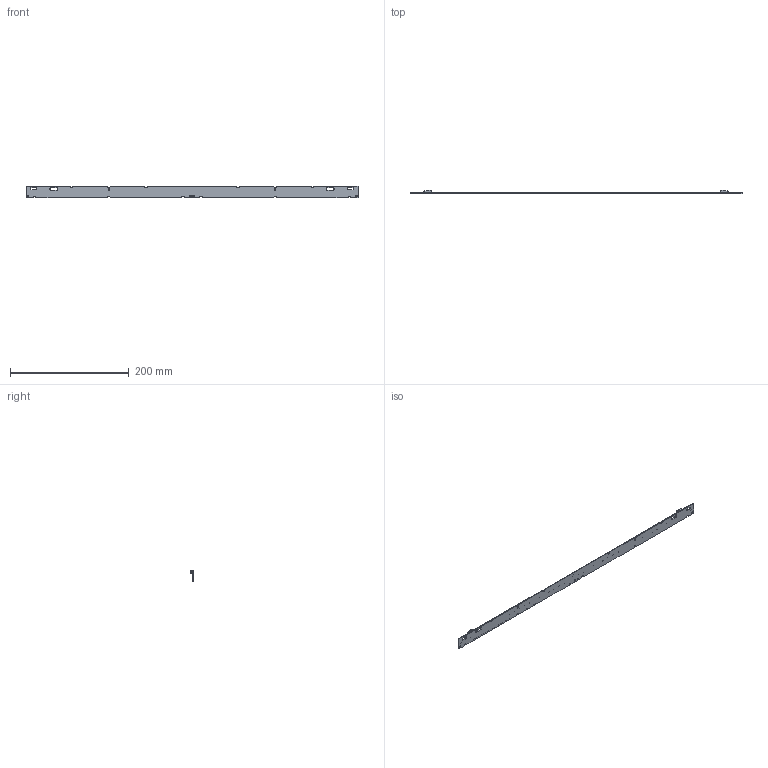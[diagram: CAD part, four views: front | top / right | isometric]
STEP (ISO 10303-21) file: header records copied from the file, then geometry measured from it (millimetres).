
FILE_DESCRIPTION((''),'2;1');
FILE_NAME('ASM_KONE_DIODE_LOGO1_ASM','2020-10-16T12:13:06',('msavic'),(''),'CREO PARAMETRIC BY PTC INC, 2016510','CREO PARAMETRIC BY PTC INC, 2016510','');
FILE_SCHEMA(('AUTOMOTIVE_DESIGN { 1 0 10303 214 1 1 1 1 }'));
Products named in the file (12): BAZA_WU-M-661; PRT0001; VSO-LOGO-5MM_3; VSO-LOGO-5MM001_2_1; BUILT-IN_LED_MODULE-5MM004_2; BUILT-IN_LED_MODULE-5MM003_2; BUILT-IN_LED_MODULE-5MM002_2; BUILT-IN_LED_MODULE-5MM001_2; CE-ZEICHEN-6MM_2; CE-ZEICHEN-6MM001_2; 2060-452_1_2_3_4; ASM_KONE_DIODE_LOGO1_ASM
Assembly tree (60 placements, depth 2):
  ASM_KONE_DIODE_LOGO1_ASM
    BAZA_WU-M-661
    PRT0001  x48
    VSO-LOGO-5MM_3
    VSO-LOGO-5MM001_2_1
    BUILT-IN_LED_MODULE-5MM004_2
    BUILT-IN_LED_MODULE-5MM003_2
    BUILT-IN_LED_MODULE-5MM002_2
    BUILT-IN_LED_MODULE-5MM001_2  x2
    CE-ZEICHEN-6MM_2
    CE-ZEICHEN-6MM001_2
    2060-452_1_2_3_4  x2
Bounding box: 559 x 5.95 x 20 mm (x, y, z)
Volume: 17944.1 mm3; surface area: 25982.8 mm2
Topology: 60 solids, 60 shells, 9199 faces, 25818 edges, 17052 vertices
Faces by surface type: plane 6552, cylinder 2443, bspline 192, extrusion 10, sphere 2
Entity records: 117760 total; most frequent: CARTESIAN_POINT 17814, ORIENTED_EDGE 16982, DIRECTION 14992, EDGE_CURVE 8491, VECTOR 8132, LINE 8122, VERTEX_POINT 5658, AXIS2_PLACEMENT_3D 3412
